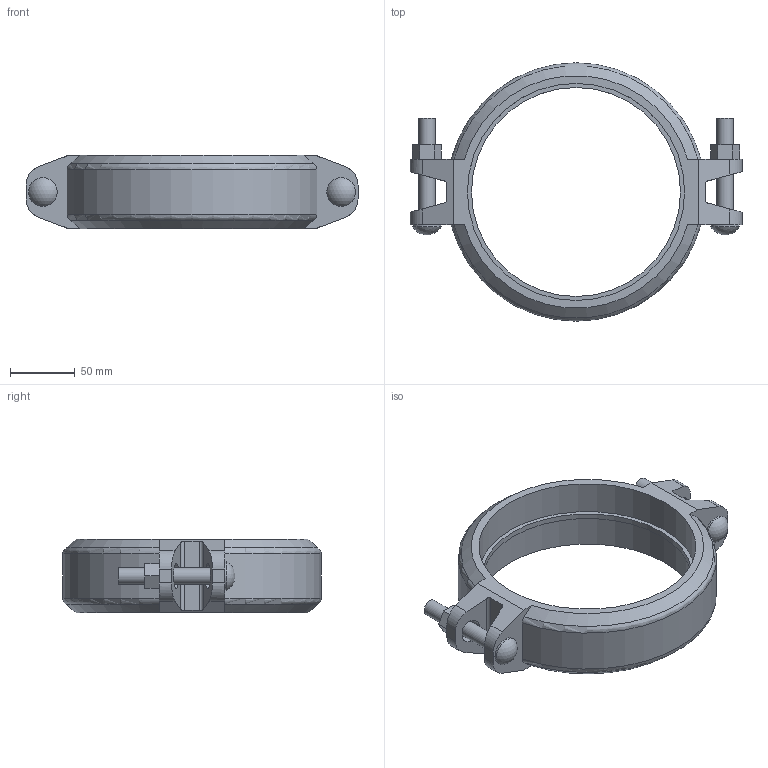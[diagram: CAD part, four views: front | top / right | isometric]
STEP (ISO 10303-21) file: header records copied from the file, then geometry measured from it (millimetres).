
FILE_DESCRIPTION(/* description */ ('VICTAULIC STYLE 009N FIRELOCK EZ RIGID COUPLING','CAx-IF Rec.Pracs.---Representation and Presentation of Product Manufacturing Information (PMI)---4.0---2014-10-13'),/* implementation_level */ '2;1');
FILE_NAME(/* name */ 'C:\Users\Vjadhav\AppData\Roaming\Autodesk\ApplicationPlugins\Victaulic.Temp\A361\Victaulic_FP-FireLock_Coupling Rigid_IR_Style 009N (OGS)_6 (150).stp',/* time_stamp */ '2022-03-23T18:55:21+05:00',/* author */ ('Vjadhav'),/* organization */ ('Victaulic'),/* preprocessor_version */ 'ST-DEVELOPER v17.2',/* originating_system */ 'Autodesk Inventor 2019',/* authorisation */ '');
FILE_SCHEMA (('AP242_MANAGED_MODEL_BASED_3D_ENGINEERING_MIM_LF { 1 0 10303 442 1 1 4 }'));
Length unit declared in the file: inch
Products named in the file (2): 009N-06.0; 009N-06.0_1
Assembly tree (1 placements, depth 2):
  009N-06.0
    009N-06.0_1
Bounding box: 257.3 x 200.15 x 57.15 mm (x, y, z)
Volume: 577996.2 mm3; surface area: 102575.6 mm2
Topology: 1 solids, 1 shells, 91 faces, 251 edges, 170 vertices
Faces by surface type: plane 50, cylinder 31, cone 4, torus 4, sphere 2
Full cylindrical faces by diameter (mm): 12.7 x4, 22.225 x2, 161.925 x1, 168.275 x2
Entity records: 3195 total; most frequent: CARTESIAN_POINT 619, DIRECTION 509, ORIENTED_EDGE 502, EDGE_CURVE 251, AXIS2_PLACEMENT_3D 180, VERTEX_POINT 170, LINE 149, VECTOR 149
